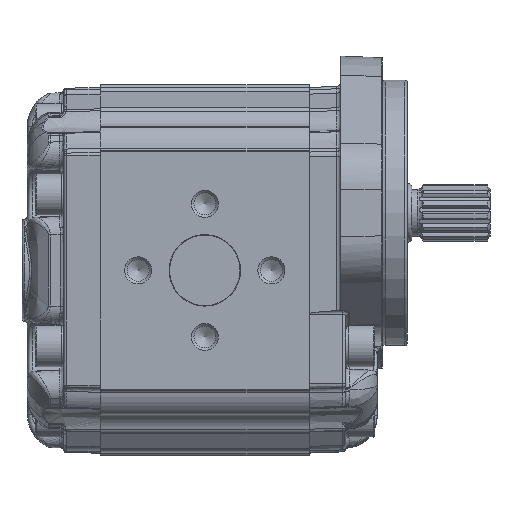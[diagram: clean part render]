
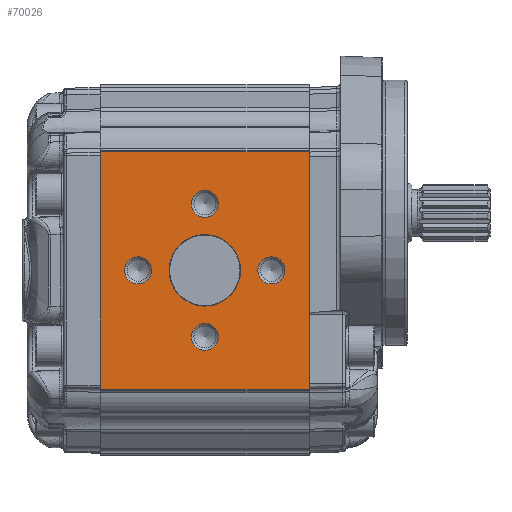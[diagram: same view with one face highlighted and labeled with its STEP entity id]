
A CAD part, left-side view. The second image highlights one B-rep face of the part: STEP entity #70026.
In plain terms, the highlighted planar face has unit normal (-1, 0, 0).
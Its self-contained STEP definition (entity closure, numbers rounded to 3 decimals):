
#8111=LINE('',#122511,#10125);
#8122=LINE('',#122596,#10136);
#8160=LINE('',#122704,#10174);
#8161=LINE('',#122705,#10175);
#10125=VECTOR('',#77587,1000.);
#10136=VECTOR('',#77662,1000.);
#10174=VECTOR('',#77788,1000.);
#10175=VECTOR('',#77789,1000.);
#16517=ORIENTED_EDGE('',*,*,#29320,.T.);
#16518=ORIENTED_EDGE('',*,*,#29321,.T.);
#16519=ORIENTED_EDGE('',*,*,#29322,.T.);
#16520=ORIENTED_EDGE('',*,*,#29323,.T.);
#16521=ORIENTED_EDGE('',*,*,#29324,.T.);
#16522=ORIENTED_EDGE('',*,*,#29224,.F.);
#16523=ORIENTED_EDGE('',*,*,#29325,.T.);
#16524=ORIENTED_EDGE('',*,*,#29266,.F.);
#16525=ORIENTED_EDGE('',*,*,#29326,.T.);
#29224=EDGE_CURVE('',#35950,#35951,#8111,.T.);
#29266=EDGE_CURVE('',#35992,#35993,#8122,.T.);
#29320=EDGE_CURVE('',#36014,#36014,#39819,.F.);
#29321=EDGE_CURVE('',#36015,#36015,#39820,.F.);
#29322=EDGE_CURVE('',#36016,#36016,#39821,.F.);
#29323=EDGE_CURVE('',#36017,#36017,#39822,.F.);
#29324=EDGE_CURVE('',#36018,#36018,#39823,.F.);
#29325=EDGE_CURVE('',#35950,#35993,#8160,.F.);
#29326=EDGE_CURVE('',#35992,#35951,#8161,.F.);
#35950=VERTEX_POINT('',#122510);
#35951=VERTEX_POINT('',#122512);
#35992=VERTEX_POINT('',#122595);
#35993=VERTEX_POINT('',#122597);
#36014=VERTEX_POINT('',#122695);
#36015=VERTEX_POINT('',#122697);
#36016=VERTEX_POINT('',#122699);
#36017=VERTEX_POINT('',#122701);
#36018=VERTEX_POINT('',#122703);
#39819=CIRCLE('',#73296,5.188);
#39820=CIRCLE('',#73297,5.188);
#39821=CIRCLE('',#73298,5.188);
#39822=CIRCLE('',#73299,5.188);
#39823=CIRCLE('',#73300,13.7);
#41146=EDGE_LOOP('',(#16517));
#41147=EDGE_LOOP('',(#16518));
#41148=EDGE_LOOP('',(#16519));
#41149=EDGE_LOOP('',(#16520));
#41150=EDGE_LOOP('',(#16521));
#41151=EDGE_LOOP('',(#16522,#16523,#16524,#16525));
#44492=FACE_BOUND('',#41146,.T.);
#44493=FACE_BOUND('',#41147,.T.);
#44494=FACE_BOUND('',#41148,.T.);
#44495=FACE_BOUND('',#41149,.T.);
#44496=FACE_BOUND('',#41150,.T.);
#44497=FACE_BOUND('',#41151,.T.);
#46936=PLANE('',#73295);
#70026=ADVANCED_FACE('',(#44492,#44493,#44494,#44495,#44496,#44497),#46936,
 .T.);
#73295=AXIS2_PLACEMENT_3D('',#122693,#77776,#77777);
#73296=AXIS2_PLACEMENT_3D('',#122694,#77778,#77779);
#73297=AXIS2_PLACEMENT_3D('',#122696,#77780,#77781);
#73298=AXIS2_PLACEMENT_3D('',#122698,#77782,#77783);
#73299=AXIS2_PLACEMENT_3D('',#122700,#77784,#77785);
#73300=AXIS2_PLACEMENT_3D('',#122702,#77786,#77787);
#77587=DIRECTION('',(0.,0.,1.));
#77662=DIRECTION('',(0.,0.,-1.));
#77776=DIRECTION('',(-1.,0.,0.));
#77777=DIRECTION('',(0.,0.,-1.));
#77778=DIRECTION('',(-1.,0.,0.));
#77779=DIRECTION('',(0.,0.,-1.));
#77780=DIRECTION('',(-1.,0.,0.));
#77781=DIRECTION('',(0.,0.,-1.));
#77782=DIRECTION('',(-1.,0.,0.));
#77783=DIRECTION('',(0.,0.,-1.));
#77784=DIRECTION('',(-1.,0.,0.));
#77785=DIRECTION('',(0.,0.,-1.));
#77786=DIRECTION('',(-1.,0.,0.));
#77787=DIRECTION('',(0.,0.,-1.));
#77788=DIRECTION('',(0.,1.,0.));
#77789=DIRECTION('',(0.,-1.,0.));
#122510=CARTESIAN_POINT('',(-57.5,80.,-45.5));
#122511=CARTESIAN_POINT('',(-57.5,80.,-84.819));
#122512=CARTESIAN_POINT('',(-57.5,80.,45.5));
#122595=CARTESIAN_POINT('',(-57.5,0.,45.5));
#122596=CARTESIAN_POINT('',(-57.5,0.,-44.978));
#122597=CARTESIAN_POINT('',(-57.5,0.,-45.5));
#122693=CARTESIAN_POINT('',(-57.5,-146.137,-84.819));
#122694=CARTESIAN_POINT('',(-57.5,40.,25.5));
#122695=CARTESIAN_POINT('',(-57.5,40.,20.312));
#122696=CARTESIAN_POINT('',(-57.5,65.5,0.));
#122697=CARTESIAN_POINT('',(-57.5,65.5,-5.188));
#122698=CARTESIAN_POINT('',(-57.5,40.,-25.5));
#122699=CARTESIAN_POINT('',(-57.5,40.,-30.688));
#122700=CARTESIAN_POINT('',(-57.5,14.5,0.));
#122701=CARTESIAN_POINT('',(-57.5,14.5,-5.188));
#122702=CARTESIAN_POINT('',(-57.5,40.,0.));
#122703=CARTESIAN_POINT('',(-57.5,40.,-13.7));
#122704=CARTESIAN_POINT('',(-57.5,-146.137,-45.5));
#122705=CARTESIAN_POINT('',(-57.5,-146.137,45.5));
